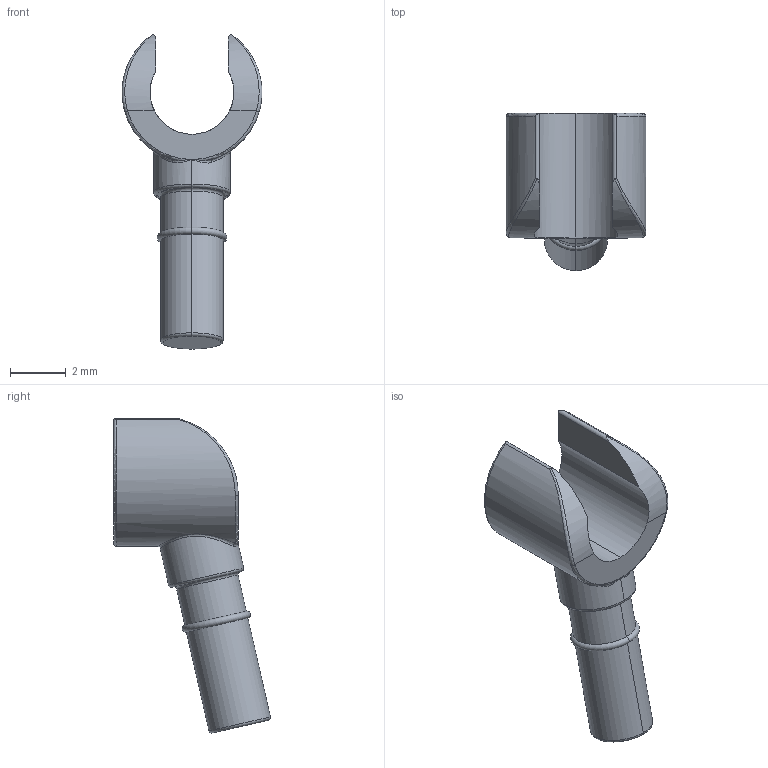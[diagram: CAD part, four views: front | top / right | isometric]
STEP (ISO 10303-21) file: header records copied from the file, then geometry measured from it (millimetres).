
FILE_DESCRIPTION (( 'STEP AP203' ), '1' );
FILE_NAME ('Lego Character - Hand.STEP', '2015-12-11T18:39:52', ( '' ), ( '' ), 'SwSTEP 2.0', 'SolidWorks 2014', '' );
FILE_SCHEMA (( 'CONFIG_CONTROL_DESIGN' ));
Length unit declared in the file: millimetre
Products named in the file (2): Lego Character - Hand
Bounding box: 5 x 5.61 x 11.22 mm (x, y, z)
Volume: 70.6 mm3; surface area: 158.8 mm2
Topology: 1 solids, 1 shells, 37 faces, 86 edges, 52 vertices
Faces by surface type: cylinder 14, torus 11, plane 6, bspline 6
Entity records: 1656 total; most frequent: CARTESIAN_POINT 694, DIRECTION 174, ORIENTED_EDGE 172, EDGE_CURVE 86, AXIS2_PLACEMENT_3D 78, VERTEX_POINT 52, CIRCLE 45, EDGE_LOOP 38
